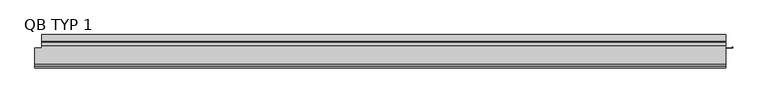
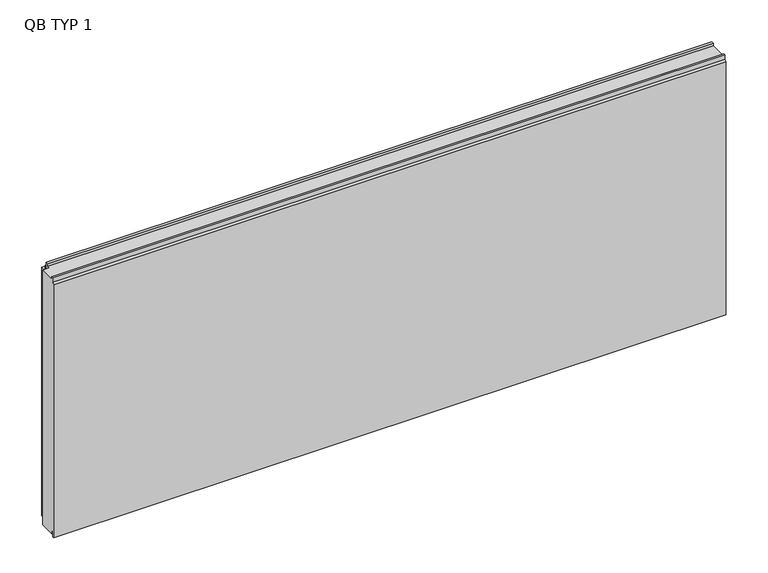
"""IFC4 building model written with IfcOpenShell, lengths in millimetres: plate geometry, TR_C_H_QBISS_Panel : QB TYP 1."""

from ifc_helpers import new_model, si_unit, frame, origin, place, context, project, spatial, polyline, outline, extrude, faceted_brep, source, transform, mapped, element, save


def qb_typ_1_d55a5ac8(model_context):
    return source(origin(), model_context, "Body", "SolidModel", [
        extrude(outline(polyline([(1262.5, -49.0), (1237.3, -49.0), (1237.3, -48.2), (1261.7, -48.2), (1261.7, -44.0), (1262.5, -44.0), (1262.5, -49.0)])), frame((0.0, 0.0, 54.0), z_axis=(0.0, 0.0, 1.0), x_axis=(1.0, 0.0, 0.0)), (0.0, 0.0, 1.0), 862.0),
        faceted_brep([(1237.5, -108.0, 1000.0), (1237.5, -108.0, 1010.0), (1237.5, -114.0, 1010.0), (1237.5, -114.0, 992.0), (1237.5, -120.0, 986.0), (1237.5, -120.0, -8.0), (1237.5, -114.0, -8.0), (1237.5, -114.0, 13.0), (1237.5, -108.0, 13.0), (1237.5, -108.0, 0.0), (1237.5, -49.0, 0.0), (1237.5, -49.0, 1000.0), (-1262.4, -108.0, 0.0), (-1262.4, -108.0, 13.0), (-1262.4, -114.0, 13.0), (-1262.4, -114.0, -8.0), (-1262.4, -120.0, -8.0), (-1262.4, -120.0, 986.0), (-1262.4, -114.0, 992.0), (-1262.4, -114.0, 1010.0), (-1262.4, -108.0, 1010.0), (-1262.4, -108.0, 1000.0), (-1262.4, -49.0, 1000.0), (-1262.4, -49.0, 0.0), (-1237.3, -49.0, 0.0), (-1237.3, -39.0, 0.0), (1237.3, -39.0, 0.0), (1237.3, -49.0, 0.0), (-1237.3, -39.0, 13.0), (1237.3, -39.0, 13.0), (-1237.3, -29.0, 13.0), (1237.3, -29.0, 13.0), (-1237.3, -29.0, -4.0), (1237.3, -29.0, -4.0), (-1237.3, 0.0, -4.0), (1237.3, 0.0, -4.0), (-1237.3, 0.0, 973.0), (1237.3, 0.0, 973.0), (-1237.3, -29.0, 973.0), (1237.3, -29.0, 973.0), (-1237.3, -29.0, 1010.0), (1237.3, -29.0, 1010.0), (-1237.3, -39.0, 1010.0), (1237.3, -39.0, 1010.0), (-1237.3, -39.0, 1000.0), (1237.3, -39.0, 1000.0), (1237.3, -49.0, 1000.0), (-1237.3, -49.0, 1000.0)], [[[0, 1, 2, 3, 4, 5, 6, 7, 8, 9, 10, 11]], [[12, 13, 14, 15, 16, 17, 18, 19, 20, 21, 22, 23]], [[9, 12, 23, 24, 25, 26, 27, 10]], [[26, 25, 28, 29]], [[29, 28, 30, 31]], [[31, 30, 32, 33]], [[33, 32, 34, 35]], [[35, 34, 36, 37]], [[37, 36, 38, 39]], [[39, 38, 40, 41]], [[41, 40, 42, 43]], [[43, 42, 44, 45]], [[21, 0, 11, 46, 45, 44, 47, 22]], [[1, 0, 21, 20]], [[2, 1, 20, 19]], [[3, 2, 19, 18]], [[4, 3, 18, 17]], [[5, 4, 17, 16]], [[6, 5, 16, 15]], [[7, 6, 15, 14]], [[8, 7, 14, 13]], [[9, 8, 13, 12]], [[47, 24, 23, 22]], [[24, 47, 44, 42, 40, 38, 36, 34, 32, 30, 28, 25]], [[46, 27, 26, 29, 31, 33, 35, 37, 39, 41, 43, 45]], [[27, 46, 11, 10]]]),
        extrude(outline(polyline([(-24.0, 994.5), (-24.0, 974.5), (-25.4998317, 974.5), (-25.4998317, 981.3023028), (-27.9998293, 981.3023028), (-27.9998293, 980.5023028), (-28.7998428, 980.5023028), (-28.7998428, 988.5023593), (-27.9998293, 988.5023593), (-27.9998293, 987.7023593), (-25.4998317, 987.7023593), (-25.4998317, 994.5), (-24.0, 994.5)])), frame((-1237.3, 0.0, 0.0), z_axis=(1.0, 0.0, 0.0), x_axis=(0.0, 1.0, 0.0)), (0.0, 0.0, 1.0), 2474.6),
    ])


if __name__ == "__main__":
    model = new_model("IFC4")
    model_context = context("Model", 3, world=origin())
    ifc_project = project(units=[si_unit("LENGTHUNIT", "METRE", prefix="MILLI")], contexts=[model_context])
    site = spatial("IfcSite", under=ifc_project)
    building = spatial("IfcBuilding", under=site)
    placement = place(None, origin())
    qb_typ_1_shape = qb_typ_1_d55a5ac8(model_context)
    element("IfcPlate", 1, ObjectType="TR_C_H_QBISS_Panel : QB TYP 1", at=placement, inside=building, context=model_context, shape_type="MappedRepresentation", body=[
        mapped(qb_typ_1_shape, transform((0.0, 0.0, 0.0), x_axis=(1.0, 0.0, 0.0), y_axis=(0.0, 1.0, 0.0), z_axis=(0.0, 0.0, 1.0))),
    ])
    save(model, "model.ifc")
